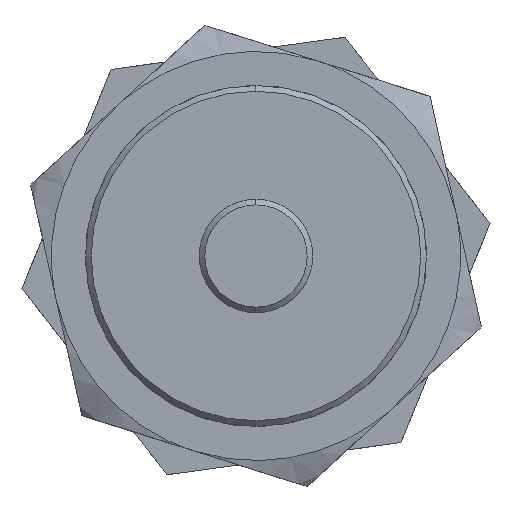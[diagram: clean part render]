
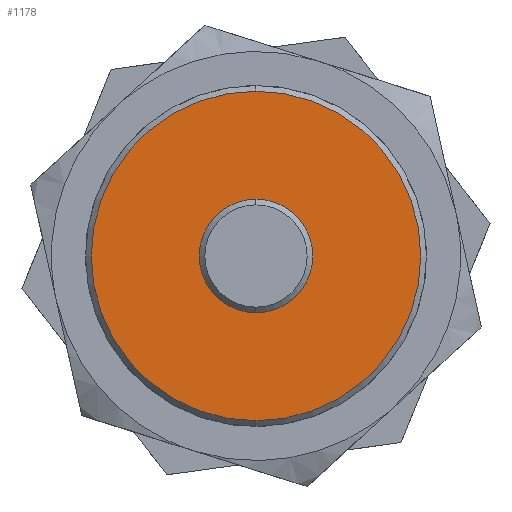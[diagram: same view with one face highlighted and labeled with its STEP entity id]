
A CAD part, left-side view. The second image highlights one B-rep face of the part: STEP entity #1178.
In plain terms, the highlighted planar face has unit normal (-1, 0, 0).
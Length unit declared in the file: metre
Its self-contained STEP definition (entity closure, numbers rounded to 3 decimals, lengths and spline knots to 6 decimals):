
#19 = AXIS2_PLACEMENT_3D ( 'NONE', #1251, #245, #1029 ) ;
#86 = FACE_OUTER_BOUND ( 'NONE', #799, .T. ) ;
#87 = AXIS2_PLACEMENT_3D ( 'NONE', #925, #250, #1034 ) ;
#98 = AXIS2_PLACEMENT_3D ( 'NONE', #1244, #572, #1371 ) ;
#154 = CIRCLE ( 'NONE', #962, 0.005 ) ;
#185 = ORIENTED_EDGE ( 'NONE', *, *, #231, .F. ) ;
#209 = CARTESIAN_POINT ( 'NONE',  ( 0.035, 0., 0. ) ) ;
#218 = CIRCLE ( 'NONE', #646, 0.0145 ) ;
#231 = EDGE_CURVE ( 'NONE', #329, #548, #218, .T. ) ;
#245 = DIRECTION ( 'NONE',  ( 1., 0., 0. ) ) ;
#250 = DIRECTION ( 'NONE',  ( 1., 0., 0. ) ) ;
#329 = VERTEX_POINT ( 'NONE', #957 ) ;
#360 = ORIENTED_EDGE ( 'NONE', *, *, #621, .T. ) ;
#375 = DIRECTION ( 'NONE',  ( 1., 0., 0. ) ) ;
#409 = FACE_BOUND ( 'NONE', #1236, .T. ) ;
#421 = DIRECTION ( 'NONE',  ( 1., 0., 0. ) ) ;
#474 = CARTESIAN_POINT ( 'NONE',  ( 0.035, 0., -0.005 ) ) ;
#548 = VERTEX_POINT ( 'NONE', #670 ) ;
#551 = ORIENTED_EDGE ( 'NONE', *, *, #590, .F. ) ;
#572 = DIRECTION ( 'NONE',  ( 1., 0., 0. ) ) ;
#579 = PLANE ( 'NONE',  #19 ) ;
#590 = EDGE_CURVE ( 'NONE', #548, #329, #1402, .T. ) ;
#621 = EDGE_CURVE ( 'NONE', #1358, #648, #1049, .T. ) ;
#646 = AXIS2_PLACEMENT_3D ( 'NONE', #209, #421, #1271 ) ;
#648 = VERTEX_POINT ( 'NONE', #474 ) ;
#666 = EDGE_CURVE ( 'NONE', #648, #1358, #154, .T. ) ;
#670 = CARTESIAN_POINT ( 'NONE',  ( 0.035, 0., 0.0145 ) ) ;
#752 = ORIENTED_EDGE ( 'NONE', *, *, #666, .T. ) ;
#799 = EDGE_LOOP ( 'NONE', ( #185, #551 ) ) ;
#847 = CARTESIAN_POINT ( 'NONE',  ( 0.035, 0., 0.005 ) ) ;
#925 = CARTESIAN_POINT ( 'NONE',  ( 0.035, 0., 0. ) ) ;
#957 = CARTESIAN_POINT ( 'NONE',  ( 0.035, 0., -0.0145 ) ) ;
#962 = AXIS2_PLACEMENT_3D ( 'NONE', #1048, #375, #1164 ) ;
#1029 = DIRECTION ( 'NONE',  ( 0., 0., -1. ) ) ;
#1034 = DIRECTION ( 'NONE',  ( 0., 0., 1. ) ) ;
#1048 = CARTESIAN_POINT ( 'NONE',  ( 0.035, 0., 0. ) ) ;
#1049 = CIRCLE ( 'NONE', #87, 0.005 ) ;
#1164 = DIRECTION ( 'NONE',  ( 0., 0., 1. ) ) ;
#1178 = ADVANCED_FACE ( 'NONE', ( #409, #86 ), #579, .F. ) ;
#1236 = EDGE_LOOP ( 'NONE', ( #360, #752 ) ) ;
#1244 = CARTESIAN_POINT ( 'NONE',  ( 0.035, 0., 0. ) ) ;
#1251 = CARTESIAN_POINT ( 'NONE',  ( 0.035, -0.014674, 0.014674 ) ) ;
#1271 = DIRECTION ( 'NONE',  ( 0., 0., -1. ) ) ;
#1358 = VERTEX_POINT ( 'NONE', #847 ) ;
#1371 = DIRECTION ( 'NONE',  ( 0., 0., -1. ) ) ;
#1402 = CIRCLE ( 'NONE', #98, 0.0145 ) ;
